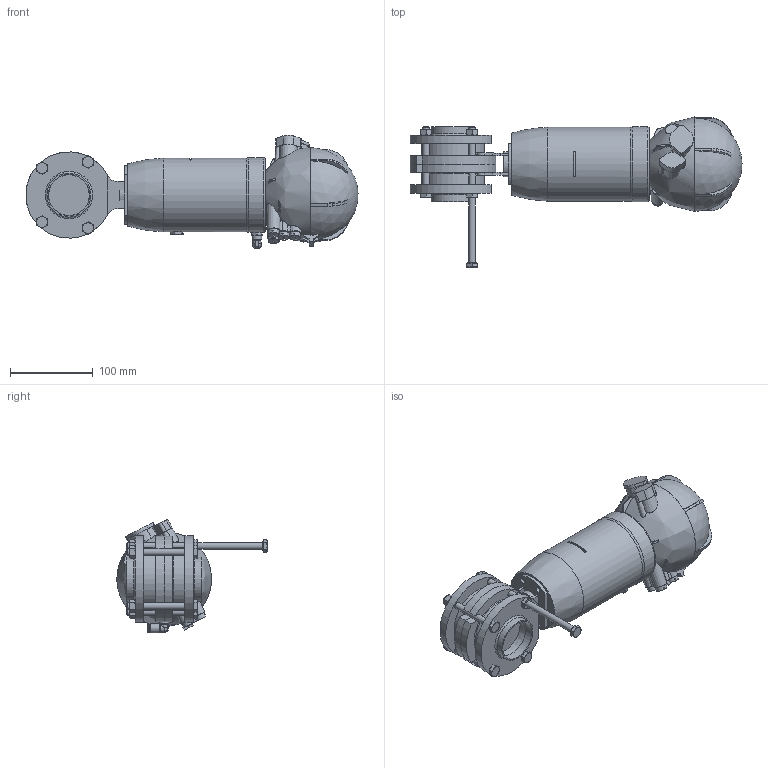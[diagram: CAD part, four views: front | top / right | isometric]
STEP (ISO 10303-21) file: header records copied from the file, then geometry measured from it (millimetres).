
FILE_DESCRIPTION(/* description */ ('ZVF V.FARF.DN50(53X1.5) WAF4 MACH83 SENC EPDM 316'),/* implementation_level */ '2;1');
FILE_NAME(/* name */ 'BEAAC6050BEBA-00^SAGOMA.step',/* time_stamp */ '2026-05-28T08:13:00+02:00',/* author */ ('malp-m'),/* organization */ (''),/* preprocessor_version */ 'ST-DEVELOPER v20.1',/* originating_system */ 'Autodesk Inventor 2026',/* authorisation */ '');
FILE_SCHEMA (('CONFIG_CONTROL_DESIGN'));
Length unit declared in the file: millimetre
Products named in the file (8): BEAAC6050BEBA; MEZZO-COR-DN050-WAFER-4; FLANGIA-DN53x1.5-WAFER-4; UNI 5588 - M8; 3DAAZVFAA052; Supporto-farf-DN25-65-; 3DAAJGIOAA007; UNI 5739 - M8 x 80
Assembly tree (16 placements, depth 2):
  BEAAC6050BEBA
    FLANGIA-DN53x1.5-WAFER-4  x2
    MEZZO-COR-DN050-WAFER-4  x2
    UNI 5739 - M8 x 80  x5
    UNI 5588 - M8  x4
    3DAAZVFAA052
    Supporto-farf-DN25-65-
    3DAAJGIOAA007
Bounding box: 400.28 x 180.97 x 137.31 mm (x, y, z)
Volume: 2324272.6 mm3; surface area: 245939.1 mm2
Topology: 16 solids, 16 shells, 1189 faces, 3110 edges, 2022 vertices
Faces by surface type: plane 815, cylinder 154, cone 146, bspline 56, torus 17, sphere 1
Full cylindrical faces by diameter (mm): 2 x1, 3 x1, 4 x1, 4.917 x11, 6 x2, 6.2 x8, 6.647 x4, 7 x5, 7.8 x1, 8 x5, 8.3 x1, 8.5 x12, 8.566 x1, 10 x2, 10.376 x1, 11 x1, 11.5 x1, 11.63 x5, 13 x4, 18 x1, 18.5 x2, 24.5 x1, 25 x1, 26 x1, 30 x1, 30.3 x1, 50 x2, 53 x2, 76 x2, 82.8 x1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
Entity records: 35725 total; most frequent: CARTESIAN_POINT 8538, DIRECTION 5723, ORIENTED_EDGE 5442, EDGE_CURVE 2721, AXIS2_PLACEMENT_3D 2330, VERTEX_POINT 1794, EDGE_LOOP 1135, LINE 1063
